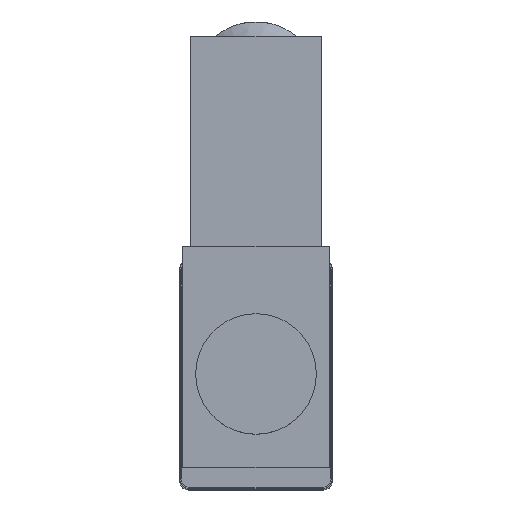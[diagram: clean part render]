
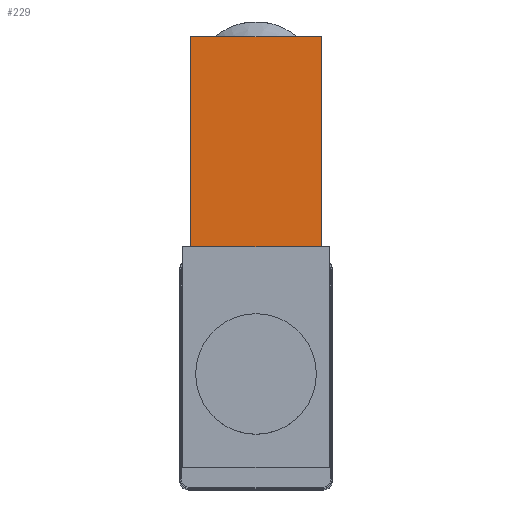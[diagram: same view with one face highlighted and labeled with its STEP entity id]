
A CAD part, top view. The second image highlights one B-rep face of the part: STEP entity #229.
In plain terms, the highlighted planar face has unit normal (0, 0, 1).
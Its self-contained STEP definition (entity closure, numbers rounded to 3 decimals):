
#229 = ADVANCED_FACE( '', ( #578 ), #579, .F. );
#578 = FACE_OUTER_BOUND( '', #1073, .T. );
#579 = PLANE( '', #1074 );
#1073 = EDGE_LOOP( '', ( #1714, #1715, #1716, #1717 ) );
#1074 = AXIS2_PLACEMENT_3D( '', #1718, #1719, #1720 );
#1714 = ORIENTED_EDGE( '', *, *, #2755, .T. );
#1715 = ORIENTED_EDGE( '', *, *, #2756, .T. );
#1716 = ORIENTED_EDGE( '', *, *, #2657, .F. );
#1717 = ORIENTED_EDGE( '', *, *, #2757, .F. );
#1718 = CARTESIAN_POINT( '', ( -7.7, 39.7, 43.3 ) );
#1719 = DIRECTION( '', ( 0., 0., -1. ) );
#1720 = DIRECTION( '', ( -1., 0., 0. ) );
#2657 = EDGE_CURVE( '', #3139, #3140, #3141, .T. );
#2755 = EDGE_CURVE( '', #3306, #3307, #3308, .T. );
#2756 = EDGE_CURVE( '', #3307, #3140, #3309, .T. );
#2757 = EDGE_CURVE( '', #3306, #3139, #3310, .T. );
#3139 = VERTEX_POINT( '', #3808 );
#3140 = VERTEX_POINT( '', #3809 );
#3141 = LINE( '', #3810, #3811 );
#3306 = VERTEX_POINT( '', #4020 );
#3307 = VERTEX_POINT( '', #4021 );
#3308 = LINE( '', #4022, #4023 );
#3309 = LINE( '', #4024, #4025 );
#3310 = LINE( '', #4026, #4027 );
#3808 = CARTESIAN_POINT( '', ( 7.7, 39.7, 43.3 ) );
#3809 = CARTESIAN_POINT( '', ( 7.7, 15., 43.3 ) );
#3810 = CARTESIAN_POINT( '', ( 7.7, 39.7, 43.3 ) );
#3811 = VECTOR( '', #4653, 1000. );
#4020 = CARTESIAN_POINT( '', ( -7.7, 39.7, 43.3 ) );
#4021 = CARTESIAN_POINT( '', ( -7.7, 15., 43.3 ) );
#4022 = CARTESIAN_POINT( '', ( -7.7, 39.7, 43.3 ) );
#4023 = VECTOR( '', #4794, 1000. );
#4024 = CARTESIAN_POINT( '', ( 8.6, 15., 43.3 ) );
#4025 = VECTOR( '', #4795, 1000. );
#4026 = CARTESIAN_POINT( '', ( -7.7, 39.7, 43.3 ) );
#4027 = VECTOR( '', #4796, 1000. );
#4653 = DIRECTION( '', ( 0., -1., 0. ) );
#4794 = DIRECTION( '', ( 0., -1., 0. ) );
#4795 = DIRECTION( '', ( 1., 0., 0. ) );
#4796 = DIRECTION( '', ( 1., 0., 0. ) );
